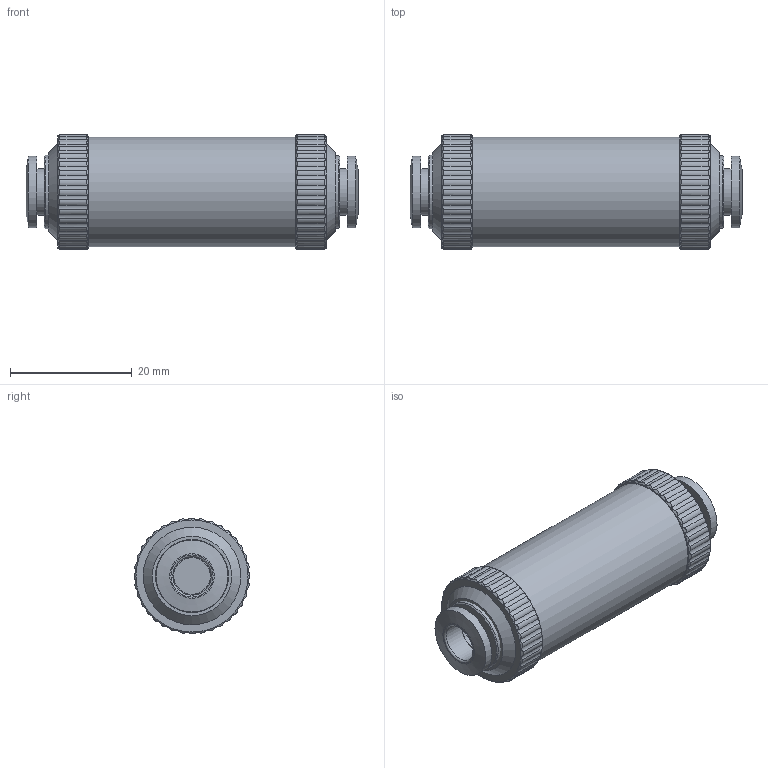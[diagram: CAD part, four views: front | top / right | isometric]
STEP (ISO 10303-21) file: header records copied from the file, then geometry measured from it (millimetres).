
FILE_DESCRIPTION(('STEP AP203'),'1');
FILE_NAME('BVFL-66_3D.stp','2024-09-30T02:48:15',(' '),(' '),'Spatial InterOp 3D',' ',' ');
FILE_SCHEMA(('CONFIG_CONTROL_DESIGN'));
Length unit declared in the file: millimetre
Products named in the file (4): BVFL-66; BVFL-66Yes44; BCAS06
Assembly tree (3 placements, depth 2):
  BVFL-66
    BVFL-66Yes44
    BCAS06
    BCAS06
Bounding box: 54.5 x 19 x 19 mm (x, y, z)
Volume: 13307.2 mm3; surface area: 5132.1 mm2
Topology: 3 solids, 3 shells, 209 faces, 540 edges, 355 vertices
Faces by surface type: cylinder 165, plane 24, cone 14, torus 6
Full cylindrical faces by diameter (mm): 6 x2, 6.3 x2, 7.7 x2, 10.7 x2, 10.8 x4, 11.15 x4, 11.8 x2, 12 x2, 18 x1
Entity records: 8534 total; most frequent: CARTESIAN_POINT 3933, ORIENTED_EDGE 988, DIRECTION 694, EDGE_CURVE 494, VERTEX_POINT 350, B_SPLINE_CURVE_WITH_KNOTS 288, AXIS2_PLACEMENT_3D 275, EDGE_LOOP 272
